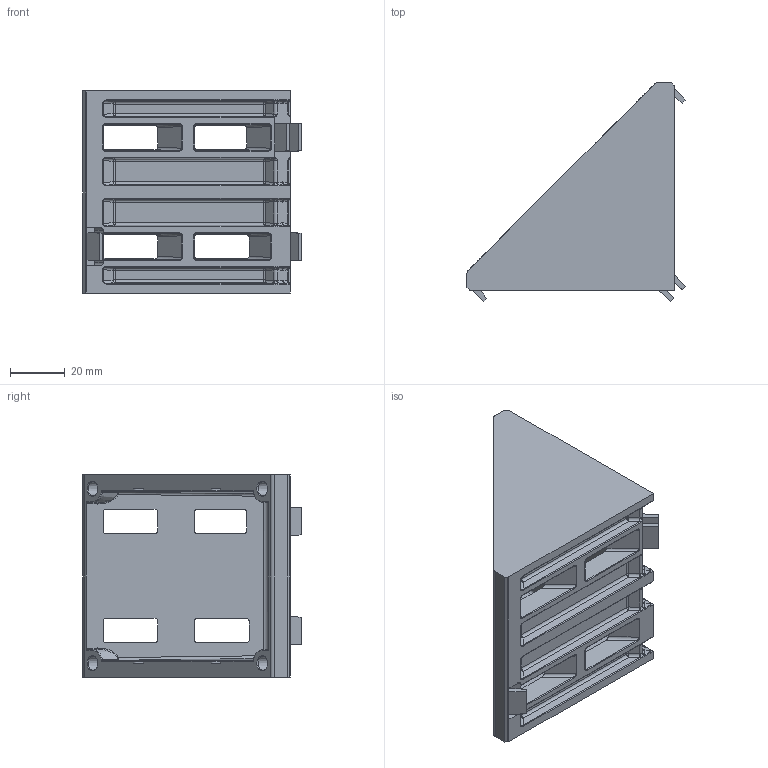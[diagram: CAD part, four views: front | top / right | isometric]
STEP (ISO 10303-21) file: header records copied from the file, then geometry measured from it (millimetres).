
FILE_DESCRIPTION(/* description */ ('ANGLE BRACKET 90° 76x76'),/* implementation_level */ '2;1');
FILE_NAME(/* name */ 'X:\Magnus\Hemsidan\STEP filer\STEP-Carryline Standarddelar\Serie 100\100-4040.stp',/* time_stamp */ '2013-12-20T13:05:50+01:00',/* author */ ('Mathias'),/* organization */ ('CARRYLINE'),/* preprocessor_version */ 'ST-DEVELOPER v15.2',/* originating_system */ 'Autodesk Inventor 2014',/* authorisation */ '');
FILE_SCHEMA (('AUTOMOTIVE_DESIGN { 1 0 10303 214 3 1 1 }'));
Length unit declared in the file: millimetre
Products named in the file (1): 100-4040
Bounding box: 79.98 x 79.98 x 74 mm (x, y, z)
Volume: 83312.9 mm3; surface area: 37743.4 mm2
Topology: 1 solids, 1 shells, 664 faces, 1607 edges, 930 vertices
Faces by surface type: cylinder 253, bspline 199, plane 160, sphere 32, cone 16, torus 4
Entity records: 23693 total; most frequent: CARTESIAN_POINT 9327, ORIENTED_EDGE 3150, DIRECTION 2866, EDGE_CURVE 1575, AXIS2_PLACEMENT_3D 1103, VERTEX_POINT 930, EDGE_LOOP 697, ADVANCED_FACE 664
